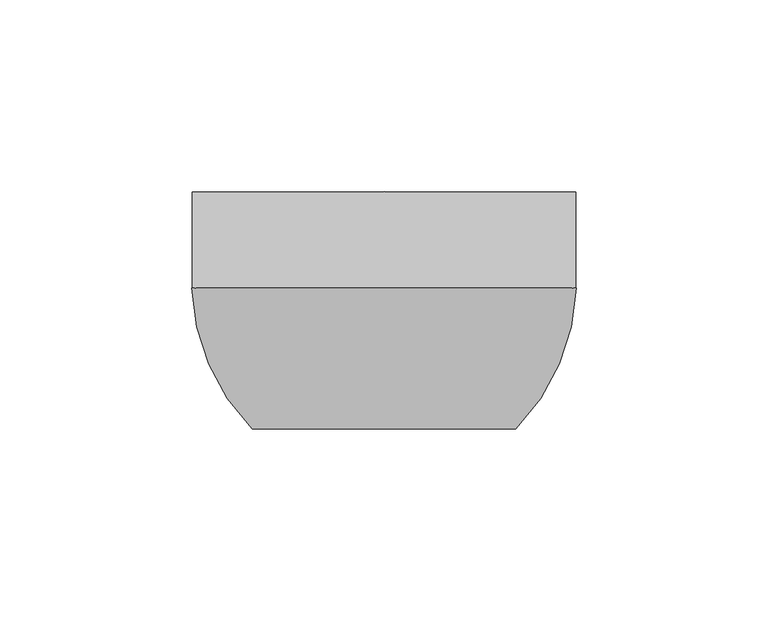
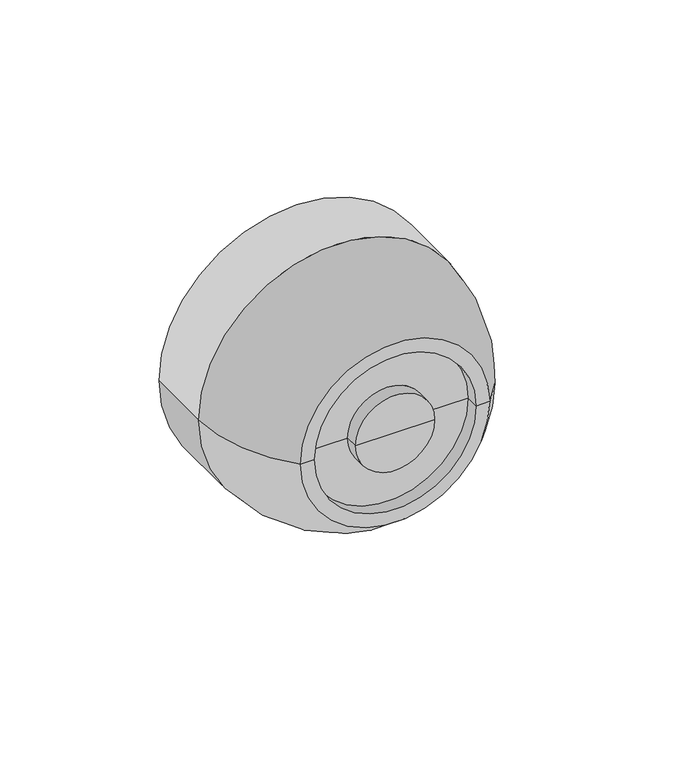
"""IFC4 building model written with IfcOpenShell, lengths in millimetres: alarm geometry, Akustiskt larmdon : Akustiskt larmdon."""

from ifc_helpers import new_model, si_unit, point, frame, frame_2d, origin, place, context, project, spatial, polyline, circle_curve, ellipse_curve, trimmed, segment, composite_curve, outline, extrude, source, transform, mapped, element, save
from ifc_brep_helpers import plane_surface, cylinder_surface, revolved_surface, advanced_brep


def alarm_2d409914(model_context):
    return source(origin(), model_context, "Body", "SolidModel", [
        advanced_brep(
        [(0.0, -25.0, 1950.0), (50.0, -25.0, 1950.0), (-50.0, -25.0, 1950.0), (-14.3707549, -61.8201941, 1950.0), (14.3707549, -61.8201941, 1950.0), (0.0, -61.8201941, 1950.0), (-14.3707549, -56.8201941, 1950.0), (14.3707549, -56.8201941, 1950.0), (-29.3707549, -56.8201941, 1950.0), (29.3707549, -56.8201941, 1950.0), (-29.3707549, -61.8201941, 1950.0), (29.3707549, -61.8201941, 1950.0), (-34.3707549, -61.8201941, 1950.0), (34.3707549, -61.8201941, 1950.0)],
        [
            (0, 1),
            (1, 2, circle_curve(frame((0.0, -25.0, 1950.0), z_axis=(0.0, 1.0, 0.0), x_axis=(1.0, 0.0, 0.0)), 50.0)),
            (2, 0),
            (2, 1, circle_curve(frame((0.0, -25.0, 1950.0), z_axis=(0.0, 1.0, 0.0), x_axis=(1.0, 0.0, 0.0)), 50.0)),
            (3, 4, circle_curve(frame((0.0, -61.8201941, 1950.0), z_axis=(0.0, -1.0, 0.0), x_axis=(1.0, 0.0, 0.0)), 14.3707549)),
            (4, 5),
            (5, 3),
            (4, 3, circle_curve(frame((0.0, -61.8201941, 1950.0), z_axis=(0.0, -1.0, 0.0), x_axis=(1.0, 0.0, 0.0)), 14.3707549)),
            (6, 7, circle_curve(frame((0.0, -56.8201941, 1950.0), z_axis=(0.0, -1.0, 0.0), x_axis=(1.0, 0.0, 0.0)), 14.3707549)),
            (7, 4),
            (3, 6),
            (7, 6, circle_curve(frame((0.0, -56.8201941, 1950.0), z_axis=(0.0, -1.0, 0.0), x_axis=(1.0, 0.0, 0.0)), 14.3707549)),
            (8, 9, circle_curve(frame((0.0, -56.8201941, 1950.0), z_axis=(0.0, -1.0, 0.0), x_axis=(1.0, 0.0, 0.0)), 29.3707549)),
            (9, 7),
            (6, 8),
            (9, 8, circle_curve(frame((0.0, -56.8201941, 1950.0), z_axis=(0.0, -1.0, 0.0), x_axis=(1.0, 0.0, 0.0)), 29.3707549)),
            (10, 11, circle_curve(frame((0.0, -61.8201941, 1950.0), z_axis=(0.0, -1.0, 0.0), x_axis=(1.0, 0.0, 0.0)), 29.3707549)),
            (11, 9),
            (8, 10),
            (11, 10, circle_curve(frame((0.0, -61.8201941, 1950.0), z_axis=(0.0, -1.0, 0.0), x_axis=(1.0, 0.0, 0.0)), 29.3707549)),
            (12, 13, circle_curve(frame((0.0, -61.8201941, 1950.0), z_axis=(0.0, -1.0, 0.0), x_axis=(1.0, 0.0, 0.0)), 34.3707549)),
            (13, 11),
            (10, 12),
            (13, 12, circle_curve(frame((0.0, -61.8201941, 1950.0), z_axis=(0.0, -1.0, 0.0), x_axis=(1.0, 0.0, 0.0)), 34.3707549)),
            (1, 13, circle_curve(frame((-4.2691398, -23.6913244, 1950.0), z_axis=(0.0, 0.0, -1.0), x_axis=(1.0, 0.0, 0.0)), 54.2849166)),
            (12, 2, circle_curve(frame((4.2691398, -23.6913244, 1950.0), z_axis=(0.0, 0.0, -1.0), x_axis=(-1.0, 0.0, 0.0)), 54.2849166)),
        ],
        [
            plane_surface(frame((0.0, -25.0, 1950.0), z_axis=(0.0, 1.0, 0.0), x_axis=(1.0, 0.0, 0.0))),
            plane_surface(frame((0.0, -61.8201941, 1950.0), z_axis=(0.0, -1.0, 0.0), x_axis=(1.0, 0.0, 0.0))),
            cylinder_surface(frame((0.0, 0.0, 1950.0), z_axis=(0.0, 1.0, 0.0), x_axis=(1.0, 0.0, 0.0)), 14.3707549),
            plane_surface(frame((0.0, -56.8201941, 1950.0), z_axis=(0.0, -1.0, 0.0), x_axis=(1.0, 0.0, 0.0))),
            revolved_surface(polyline([(29.3707549, -56.8201941, 1950.0), (29.3707549, -61.8201941, 1950.0)]), (0.0, 0.0, 1950.0), (0.0, 1.0, 0.0)),
            revolved_surface(trimmed(ellipse_curve(frame((-4.2691398, -23.6913244, 1950.0), z_axis=(0.0, 0.0, 1.0), x_axis=(1.0, 0.0, 0.0)), 54.2849166, 54.2849166), [point((34.3707549, -61.8201941, 1950.0))], [point((50.0, -25.0, 1950.0))], True, "CARTESIAN"), (0.0, 0.0, 1950.0), (0.0, 1.0, 0.0)),
        ],
        [
            (0, [[1, 2, 3]]),
            (0, [[-3, 4, -1]]),
            (1, [[5, 6, 7]]),
            (1, [[8, -7, -6]]),
            (2, [[9, 10, -5, 11]]),
            (2, [[12, -11, -8, -10]]),
            (3, [[13, 14, -9, 15]]),
            (3, [[16, -15, -12, -14]]),
            (4, [[17, 18, -13, 19]]),
            (4, [[20, -19, -16, -18]]),
            (1, [[21, 22, -17, 23]]),
            (1, [[24, -23, -20, -22]]),
            (5, [[-2, 25, -21, 26]]),
            (5, [[-4, -26, -24, -25]]),
        ],
    ),
        extrude(outline(composite_curve([segment(trimmed(circle_curve(frame_2d((1950.0, 0.0)), 50.0), [point((1950.0, -50.0))], [point((1950.0, 50.0))], False, "CARTESIAN"), True, "CONTINUOUS"), segment(trimmed(circle_curve(frame_2d((1950.0, 0.0)), 50.0), [point((1950.0, 50.0))], [point((1950.0, -50.0))], False, "CARTESIAN"), True, "CONTINUOUS")], self_intersect=False)), frame((0.0, -25.0, 0.0), z_axis=(0.0, 1.0, 0.0), x_axis=(0.0, 0.0, 1.0)), (0.0, 0.0, 1.0), 25.0),
    ])


if __name__ == "__main__":
    model = new_model("IFC4")
    model_context = context("Model", 3, world=origin())
    ifc_project = project(units=[si_unit("LENGTHUNIT", "METRE", prefix="MILLI")], contexts=[model_context])
    site = spatial("IfcSite", under=ifc_project)
    building = spatial("IfcBuilding", under=site)
    placement = place(None, origin())
    alarm_shape = alarm_2d409914(model_context)
    element("IfcAlarm", 1, ObjectType="Akustiskt larmdon : Akustiskt larmdon", at=placement, inside=building, context=model_context, shape_type="MappedRepresentation", body=[
        mapped(alarm_shape, transform((0.0, 0.0, 0.0), x_axis=(1.0, 0.0, 0.0), y_axis=(0.0, 1.0, 0.0), z_axis=(0.0, 0.0, 1.0))),
    ])
    save(model, "model.ifc")
